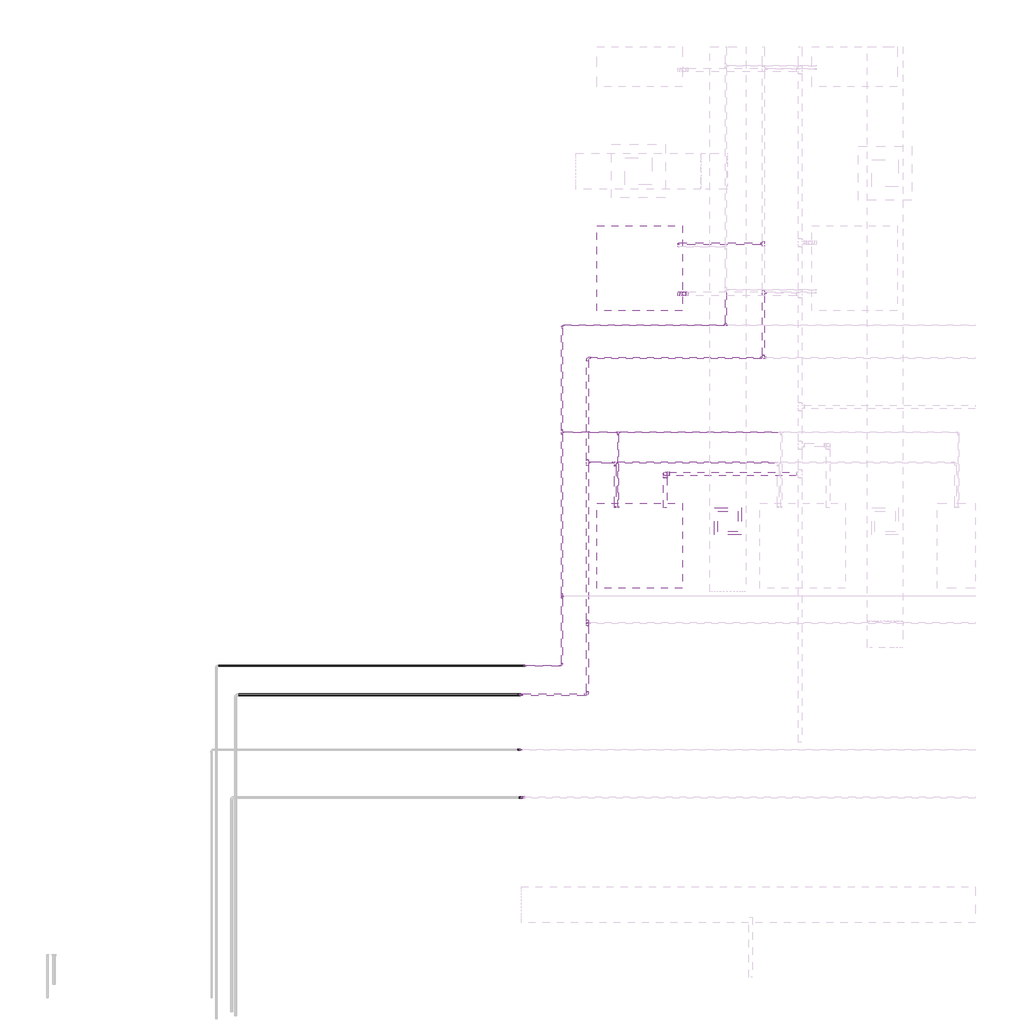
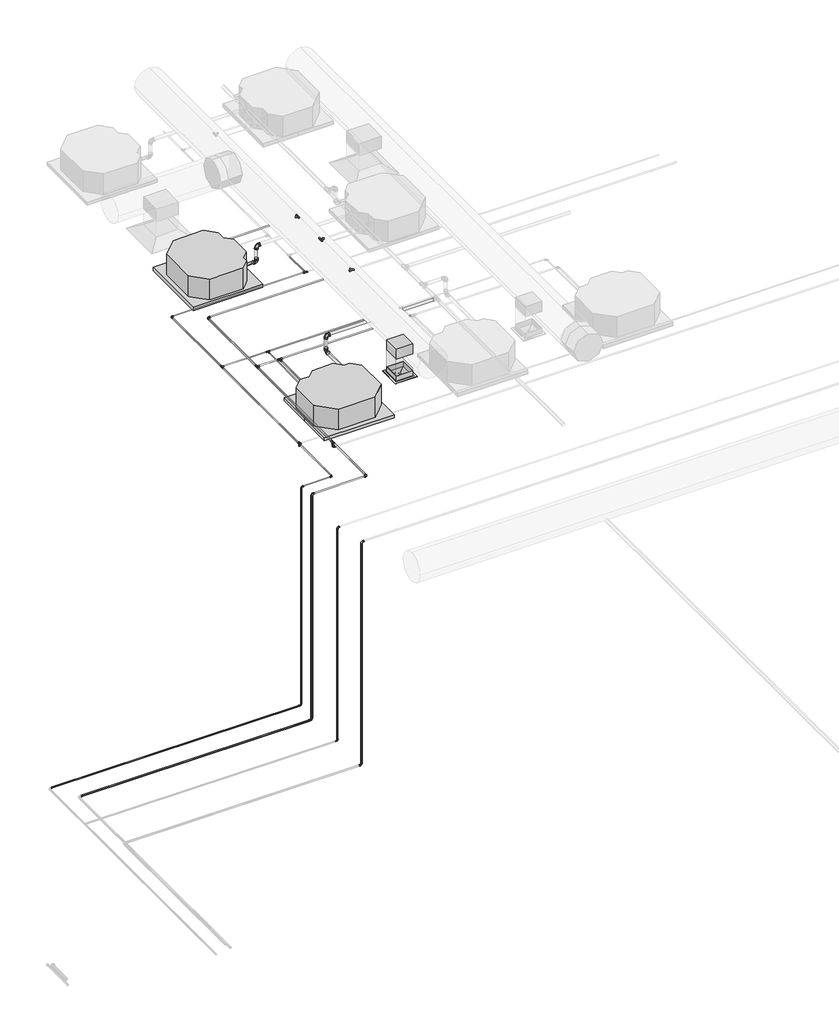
# One storey, part 13 of 22: 37 pipe fittings, 30 pipe segments, 2 proxies, 1 air terminal, 1 duct fitting, 1 duct segment.
"""IFC4 building model written with IfcOpenShell, lengths in millimetres."""

from ifc_helpers import new_model, si_unit, point, frame, frame_2d, origin, place, context, project, spatial, polyline, circle_curve, trimmed, segment, composite_curve, outline, extrude, transform, mapped, element, save
from components import sdq3535_a75e83f7, mechanical_equipment_53173f38, duct_fitting_570af4ff, pipe_fitting_45771724, pipe_fitting_144f4440, pipe_fitting_16c020f5, pipe_fitting_0e110a5f, pipe_fitting_afe73776, pipe_fitting_09966660, pipe_fitting_d3e019f1, pipe_fitting_501e5992, pipe_fitting_648138cd, pipe_fitting_58ab9b66, pipe_fitting_da16c1b3, pipe_fitting_5a6d96d3, pipe_fitting_3e80353c

model = new_model("IFC4")

# Units and contexts
model_context = context("Model", 3, world=origin())
ifc_project = project(units=[si_unit("LENGTHUNIT", "METRE", prefix="MILLI")], contexts=[model_context])

# Site, building, storey
site = spatial("IfcSite", under=ifc_project)
building = spatial("IfcBuilding", under=site)
storey = spatial("IfcBuildingStorey", under=building, Name="Nível 2", Elevation=3880.0)

# Air terminal
placement = place(None, origin())
sdq3535_shape = sdq3535_a75e83f7(model_context)
element("IfcAirTerminal", 1, ObjectType="11 - Difusor Quadrado : SDQ3535", at=placement, inside=storey, context=model_context, shape_type="MappedRepresentation", body=[
    mapped(sdq3535_shape, transform((-509.4071407, 3554.0761866, 6880.0), x_axis=(-1.0, 0.0, 0.0), y_axis=(0.0, -1.0, 0.0), z_axis=(0.0, 0.0, 1.0))),
])

# Proxies
mechanical_equipment_shape = mechanical_equipment_53173f38(model_context)
element("IfcBuildingElementProxy", 2, Name="Midea_VRF_Indoor_4-way Cassette_MI-90(100,112,140)Q4_DHN1-D (2nd DC) : MI2-140Q4DHN1", ObjectType="Midea_VRF_Indoor_4-way Cassette_MI-90(100,112,140)Q4_DHN1-D (2nd DC) : MI2-140Q4DHN1", at=placement, inside=storey, context=model_context, shape_type="MappedRepresentation", body=[
    mapped(mechanical_equipment_shape, transform((-1495.8584408, 3280.8653729, 6880.0), x_axis=(0.0, 1.0, 0.0), y_axis=(-1.0, 0.0, 0.0), z_axis=(0.0, 0.0, 1.0))),
])
element("IfcBuildingElementProxy", 3, Name="Midea_VRF_Indoor_4-way Cassette_MI-90(100,112,140)Q4_DHN1-D (2nd DC) : MI2-140Q4DHN1", ObjectType="Midea_VRF_Indoor_4-way Cassette_MI-90(100,112,140)Q4_DHN1-D (2nd DC) : MI2-140Q4DHN1", at=placement, inside=storey, context=model_context, shape_type="MappedRepresentation", body=[
    mapped(mechanical_equipment_shape, transform((-1495.8584408, 6380.8653729, 6880.0), x_axis=(1.0, 0.0, 0.0), y_axis=(0.0, 1.0, 0.0), z_axis=(0.0, 0.0, 1.0))),
])

# Duct fitting
duct_fitting_shape = duct_fitting_570af4ff(model_context)
element("IfcDuctFitting", 4, ObjectType="M_Encaixe de duto retangular : Padrão", at=placement, inside=storey, context=model_context, shape_type="MappedRepresentation", body=[
    mapped(duct_fitting_shape, transform((-509.4071407, 3554.0761866, 7301.0), x_axis=(0.0, 0.0, -1.0), y_axis=(0.0, 1.0, 0.0), z_axis=(1.0, 0.0, 0.0))),
])

# Duct segment
element("IfcDuctSegment", 5, ObjectType="Raios cotovelos / torneiras", at=placement, inside=storey, context=model_context, shape_type="SweptSolid", body=[
    extrude(outline(polyline([(-621.9071407, 3441.5761866), (-621.9071407, 3666.5761866), (-396.9071407, 3666.5761866), (-396.9071407, 3441.5761866), (-621.9071407, 3441.5761866)])), frame((0.0, 0.0, 6885.0), z_axis=(0.0, 0.0, 1.0), x_axis=(1.0, 0.0, 0.0)), (0.0, 0.0, 1.0), 314.4),
])

# Pipe fittings
pipe_fitting_shape = pipe_fitting_45771724(model_context)
element("IfcPipeFitting", 6, ObjectType="Cotovelo - PVC - CW : Padrão", at=placement, inside=storey, context=model_context, shape_type="MappedRepresentation", body=[
    mapped(pipe_fitting_shape, transform((-1210.8584408, 4085.8653728, 7132.3), x_axis=(0.0, 0.9999999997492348, -2.239487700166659e-05), y_axis=(0.0, 2.239487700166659e-05, 0.9999999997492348), z_axis=(1.0, 0.0, 0.0))),
])
pipe_fitting_2_shape = pipe_fitting_144f4440(model_context)
element("IfcPipeFitting", 7, ObjectType="Cotovelo - PVC - CW : Padrão", at=placement, inside=storey, context=model_context, shape_type="MappedRepresentation", body=[
    mapped(pipe_fitting_2_shape, transform((-1000.4586934, 6095.8653729, 7132.3085101), x_axis=(1.0, 0.0, 0.0), y_axis=(0.0, 0.0, 1.0), z_axis=(0.0, -1.0, 0.0))),
])
element("IfcPipeFitting", 8, ObjectType="Cotovelo - PVC - CW : Padrão", at=placement, inside=storey, context=model_context, shape_type="MappedRepresentation", body=[
    mapped(pipe_fitting_2_shape, transform((-1000.4586934, 6095.8653729, 7360.6313654), x_axis=(0.0, 0.0, 1.0), y_axis=(1.0, 0.0, 0.0), z_axis=(0.0, 1.0, 0.0))),
])
element("IfcPipeFitting", 9, ObjectType="Cotovelo - PVC - CW : Padrão", at=placement, inside=storey, context=model_context, shape_type="MappedRepresentation", body=[
    mapped(pipe_fitting_2_shape, transform((-1210.8584408, 4085.8653728, 7360.6313654), x_axis=(0.0, 0.0, 1.0), y_axis=(1.0, 0.0, 0.0), z_axis=(0.0, 1.0, 0.0))),
])
pipe_fitting_3_shape = pipe_fitting_16c020f5(model_context)
element("IfcPipeFitting", 10, ObjectType="Cotovelo - Soldado - CU : Padrão", at=placement, inside=storey, context=model_context, shape_type="MappedRepresentation", body=[
    mapped(pipe_fitting_3_shape, transform((-2079.8504151, 2420.9008152, 7062.3085101), x_axis=(0.0, 0.0, -1.0), y_axis=(1.0, 0.0, 0.0), z_axis=(0.0, -1.0, 0.0))),
])
pipe_fitting_4_shape = pipe_fitting_0e110a5f(model_context)
element("IfcPipeFitting", 11, ObjectType="Cotovelo - Soldado - CU : Padrão", at=placement, inside=storey, context=model_context, shape_type="MappedRepresentation", body=[
    mapped(pipe_fitting_4_shape, transform((-2813.8891409, 473.4586233, 7132.3), x_axis=(-1.0, 0.0, 0.0), y_axis=(0.0, 0.0, -1.0), z_axis=(0.0, -1.0, 0.0))),
])
element("IfcPipeFitting", 12, ObjectType="Cotovelo - Soldado - CU : Padrão", at=placement, inside=storey, context=model_context, shape_type="MappedRepresentation", body=[
    mapped(pipe_fitting_4_shape, transform((-2813.8891409, 473.4586233, 3918.9), x_axis=(0.0, 0.0, -1.0), y_axis=(-1.0, 0.0, 0.0), z_axis=(0.0, 1.0, 0.0))),
])
element("IfcPipeFitting", 13, ObjectType="Cotovelo - Soldado - CU : Padrão", at=placement, inside=storey, context=model_context, shape_type="MappedRepresentation", body=[
    mapped(pipe_fitting_4_shape, transform((-2079.8504151, 1620.03247, 7132.3), x_axis=(1.0, 0.0, 0.0), y_axis=(0.0, 1.0, 0.0), z_axis=(0.0, 0.0, 1.0))),
])
element("IfcPipeFitting", 14, ObjectType="Cotovelo - Soldado - CU : Padrão", at=placement, inside=storey, context=model_context, shape_type="MappedRepresentation", body=[
    mapped(pipe_fitting_4_shape, transform((-2079.8504151, 5380.03247, 7132.3), x_axis=(-1.0, 0.0, 0.0), y_axis=(0.0, -1.0, 0.0), z_axis=(0.0, 0.0, 1.0))),
])
element("IfcPipeFitting", 15, ObjectType="Cotovelo - Soldado - CU : Padrão", at=placement, inside=storey, context=model_context, shape_type="MappedRepresentation", body=[
    mapped(pipe_fitting_4_shape, transform((-2828.3914151, 1620.03247, 7132.3), x_axis=(-1.0, 0.0, 0.0), y_axis=(0.0, 0.0, -1.0), z_axis=(0.0, -1.0, 0.0))),
])
element("IfcPipeFitting", 16, ObjectType="Cotovelo - Soldado - CU : Padrão", at=placement, inside=storey, context=model_context, shape_type="MappedRepresentation", body=[
    mapped(pipe_fitting_4_shape, transform((-2828.3914151, 1620.03247, 3880.0), x_axis=(0.0, 0.0, -1.0), y_axis=(-1.0, 0.0, 0.0), z_axis=(0.0, 1.0, 0.0))),
])
pipe_fitting_5_shape = pipe_fitting_afe73776(model_context)
element("IfcPipeFitting", 17, ObjectType="Bucha de redução reta - Soldada - CU : Padrão", at=placement, inside=storey, context=model_context, shape_type="MappedRepresentation", body=[
    mapped(pipe_fitting_5_shape, transform((-84.7367501, 6107.6545593, 7132.3003125), x_axis=(0.9999999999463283, 0.0, 1.0360678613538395e-05), y_axis=(0.0, 1.0000000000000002, 0.0), z_axis=(-1.0360678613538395e-05, 0.0, 0.9999999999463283))),
])
element("IfcPipeFitting", 18, ObjectType="Bucha de redução reta - Soldada - CU : Padrão", at=placement, inside=storey, context=model_context, shape_type="MappedRepresentation", body=[
    mapped(pipe_fitting_5_shape, transform((-1769.0692545, 4182.6905207, 7132.3005294), x_axis=(0.0, -0.9999999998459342, 1.7553676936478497e-05), y_axis=(1.0, 0.0, 0.0), z_axis=(0.0, 1.7553676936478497e-05, 0.9999999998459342))),
])
element("IfcPipeFitting", 19, ObjectType="Bucha de redução reta - Soldada - CU : Padrão", at=placement, inside=storey, context=model_context, shape_type="MappedRepresentation", body=[
    mapped(pipe_fitting_5_shape, transform((-2079.8504151, 2420.9008152, 7102.1395), x_axis=(0.0, 0.0, -1.0), y_axis=(0.0, 1.0, 0.0), z_axis=(1.0, 0.0, 0.0))),
])
pipe_fitting_6_shape = pipe_fitting_09966660(model_context)
element("IfcPipeFitting", 20, ObjectType="Tê - Soldado - CU : Padrão", at=placement, inside=storey, context=model_context, shape_type="MappedRepresentation", body=[
    mapped(pipe_fitting_6_shape, transform((-114.8972501, 5380.03247, 7132.3), x_axis=(-1.0, 0.0, 0.0), y_axis=(0.0, -1.0, 0.0), z_axis=(0.0, 0.0, 1.0))),
])
element("IfcPipeFitting", 21, ObjectType="Tê - Soldado - CU : Padrão", at=placement, inside=storey, context=model_context, shape_type="MappedRepresentation", body=[
    mapped(pipe_fitting_6_shape, transform((-114.8972501, 6107.6545593, 7132.3), x_axis=(0.0, -1.0, 0.0), y_axis=(-0.9999999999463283, 0.0, -1.0360678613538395e-05), z_axis=(1.0360678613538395e-05, 0.0, -0.9999999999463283))),
])
element("IfcPipeFitting", 22, ObjectType="Tê - Soldado - CU : Padrão", at=placement, inside=storey, context=model_context, shape_type="MappedRepresentation", body=[
    mapped(pipe_fitting_6_shape, transform((-114.8972501, 6654.0761866, 7132.3), x_axis=(0.0, -1.0, 0.0), y_axis=(0.9999999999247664, 0.0, -1.2266510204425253e-05), z_axis=(1.2266510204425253e-05, 0.0, 0.9999999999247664))),
])
element("IfcPipeFitting", 23, ObjectType="Tê - Soldado - CU : Padrão", at=placement, inside=storey, context=model_context, shape_type="MappedRepresentation", body=[
    mapped(pipe_fitting_6_shape, transform((-2079.8504151, 4212.8510207, 7132.3), x_axis=(0.0, 1.0, 0.0), y_axis=(-1.0, 0.0, 0.0), z_axis=(0.0, 0.0, 1.0))),
])
element("IfcPipeFitting", 24, ObjectType="Tê - Soldado - CU : Padrão", at=placement, inside=storey, context=model_context, shape_type="MappedRepresentation", body=[
    mapped(pipe_fitting_6_shape, transform((-1769.0692545, 4212.8510207, 7132.3), x_axis=(-1.0, 0.0, 0.0), y_axis=(0.0, 0.9999999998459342, -1.7553676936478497e-05), z_axis=(0.0, -1.7553676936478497e-05, -0.9999999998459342))),
])
element("IfcPipeFitting", 25, ObjectType="Tê - Soldado - CU : Padrão", at=placement, inside=storey, context=model_context, shape_type="MappedRepresentation", body=[
    mapped(pipe_fitting_6_shape, transform((-2079.8504151, 2420.9008152, 7132.3), x_axis=(0.0, 1.0, 0.0), y_axis=(0.0, 0.0, 1.0), z_axis=(1.0, 0.0, 0.0))),
])
pipe_fitting_7_shape = pipe_fitting_d3e019f1(model_context)
element("IfcPipeFitting", 26, ObjectType="Bucha de redução reta - Soldada - CU : Padrão", at=placement, inside=storey, context=model_context, shape_type="MappedRepresentation", body=[
    mapped(pipe_fitting_7_shape, transform((-1058.1854408, 6654.0761866, 7132.3083568), x_axis=(-0.9999999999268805, 0.0, 1.2092934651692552e-05), y_axis=(0.0, -1.0, 0.0), z_axis=(1.2092934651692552e-05, 0.0, 0.9999999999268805))),
])
pipe_fitting_8_shape = pipe_fitting_501e5992(model_context)
element("IfcPipeFitting", 27, ObjectType="Bucha de redução reta - Soldada - CU : Padrão", at=placement, inside=storey, context=model_context, shape_type="MappedRepresentation", body=[
    mapped(pipe_fitting_8_shape, transform((-1769.0692545, 3718.5242729, 7132.3082925), x_axis=(0.0, -0.999999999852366, 1.718336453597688e-05), y_axis=(1.0, 0.0, 0.0), z_axis=(0.0, 1.718336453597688e-05, 0.999999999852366))),
])
pipe_fitting_9_shape = pipe_fitting_648138cd(model_context)
element("IfcPipeFitting", 28, ObjectType="Cotovelo - Soldado - CU : Padrão", at=placement, inside=storey, context=model_context, shape_type="MappedRepresentation", body=[
    mapped(pipe_fitting_9_shape, transform((-2364.6914695, 2720.9008152, 7026.8446487), x_axis=(0.0, 0.0, -1.0), y_axis=(1.0, 0.0, 0.0), z_axis=(0.0, -1.0, 0.0))),
])
pipe_fitting_10_shape = pipe_fitting_58ab9b66(model_context)
element("IfcPipeFitting", 29, ObjectType="Bucha de redução reta - Soldada - CU : Padrão", at=placement, inside=storey, context=model_context, shape_type="MappedRepresentation", body=[
    mapped(pipe_fitting_10_shape, transform((-1061.1840408, 6620.2737448, 7026.8446487), x_axis=(-1.0, 0.0, 0.0), y_axis=(0.0, -1.0, 0.0), z_axis=(0.0, 0.0, 1.0))),
])
element("IfcPipeFitting", 30, ObjectType="Bucha de redução reta - Soldada - CU : Padrão", at=placement, inside=storey, context=model_context, shape_type="MappedRepresentation", body=[
    mapped(pipe_fitting_10_shape, transform((-1735.2668127, 3715.5397729, 7026.8446487), x_axis=(0.0, -1.0, 0.0), y_axis=(1.0, 0.0, 0.0), z_axis=(0.0, 0.0, 1.0))),
])
pipe_fitting_11_shape = pipe_fitting_da16c1b3(model_context)
element("IfcPipeFitting", 31, ObjectType="Tê - Soldado - CU : Padrão", at=placement, inside=storey, context=model_context, shape_type="MappedRepresentation", body=[
    mapped(pipe_fitting_11_shape, transform((-534.8999659, 5743.0785153, 7026.8446487), x_axis=(1.0, 0.0, 0.0), y_axis=(0.0, -1.0, 0.0), z_axis=(0.0, 0.0, -1.0))),
])
element("IfcPipeFitting", 32, ObjectType="Tê - Soldado - CU : Padrão", at=placement, inside=storey, context=model_context, shape_type="MappedRepresentation", body=[
    mapped(pipe_fitting_11_shape, transform((-2364.6914695, 4550.568265, 7026.8446487), x_axis=(0.0, 1.0, 0.0), y_axis=(-1.0, 0.0, 0.0), z_axis=(0.0, 0.0, 1.0))),
])
element("IfcPipeFitting", 33, ObjectType="Tê - Soldado - CU : Padrão", at=placement, inside=storey, context=model_context, shape_type="MappedRepresentation", body=[
    mapped(pipe_fitting_11_shape, transform((-1735.2668127, 4550.568265, 7026.8446487), x_axis=(-1.0, 0.0, 0.0), y_axis=(0.0, 1.0, 0.0), z_axis=(0.0, 0.0, -1.0))),
])
element("IfcPipeFitting", 34, ObjectType="Tê - Soldado - CU : Padrão", at=placement, inside=storey, context=model_context, shape_type="MappedRepresentation", body=[
    mapped(pipe_fitting_11_shape, transform((-2364.6914695, 2720.9008152, 7026.8446487), x_axis=(0.0, 1.0, 0.0), y_axis=(0.0, 0.0, 1.0), z_axis=(1.0, 0.0, 0.0))),
])
pipe_fitting_12_shape = pipe_fitting_5a6d96d3(model_context)
element("IfcPipeFitting", 35, ObjectType="Bucha de redução reta - Soldada - CU : Padrão", at=placement, inside=storey, context=model_context, shape_type="MappedRepresentation", body=[
    mapped(pipe_fitting_12_shape, transform((-1735.2668127, 4525.551265, 7026.8446487), x_axis=(0.0, -1.0, 0.0), y_axis=(1.0, 0.0, 0.0), z_axis=(0.0, 0.0, 1.0))),
])
element("IfcPipeFitting", 36, ObjectType="Bucha de redução reta - Soldada - CU : Padrão", at=placement, inside=storey, context=model_context, shape_type="MappedRepresentation", body=[
    mapped(pipe_fitting_12_shape, transform((-2364.6914695, 2720.9008152, 7001.8276487), x_axis=(0.0, 0.0, -1.0), y_axis=(0.0, 1.0, 0.0), z_axis=(1.0, 0.0, 0.0))),
])
pipe_fitting_13_shape = pipe_fitting_3e80353c(model_context)
element("IfcPipeFitting", 37, ObjectType="Cotovelo - Soldado - CU : Padrão", at=placement, inside=storey, context=model_context, shape_type="MappedRepresentation", body=[
    mapped(pipe_fitting_13_shape, transform((-2833.8891408, 1004.7679315, 3954.6), x_axis=(0.0, 0.0, -1.0), y_axis=(-1.0, 0.0, 0.0), z_axis=(0.0, 1.0, 0.0))),
])
element("IfcPipeFitting", 38, ObjectType="Cotovelo - Soldado - CU : Padrão", at=placement, inside=storey, context=model_context, shape_type="MappedRepresentation", body=[
    mapped(pipe_fitting_13_shape, transform((-2364.6914695, 5743.0785153, 7026.8446487), x_axis=(-1.0, 0.0, 0.0), y_axis=(0.0, -1.0, 0.0), z_axis=(0.0, 0.0, 1.0))),
])
element("IfcPipeFitting", 39, ObjectType="Cotovelo - Soldado - CU : Padrão", at=placement, inside=storey, context=model_context, shape_type="MappedRepresentation", body=[
    mapped(pipe_fitting_13_shape, transform((-2784.6914695, 1943.0785153, 7026.8446487), x_axis=(-1.0, 0.0, 0.0), y_axis=(0.0, 0.0, -1.0), z_axis=(0.0, -1.0, 0.0))),
])
element("IfcPipeFitting", 40, ObjectType="Cotovelo - Soldado - CU : Padrão", at=placement, inside=storey, context=model_context, shape_type="MappedRepresentation", body=[
    mapped(pipe_fitting_13_shape, transform((-2784.6914695, 1943.0785153, 3880.0), x_axis=(0.0, 0.0, -1.0), y_axis=(-1.0, 0.0, 0.0), z_axis=(0.0, 1.0, 0.0))),
])
element("IfcPipeFitting", 41, ObjectType="Cotovelo - Soldado - CU : Padrão", at=placement, inside=storey, context=model_context, shape_type="MappedRepresentation", body=[
    mapped(pipe_fitting_13_shape, transform((-2833.8891408, 1004.7679315, 7026.8446487), x_axis=(0.0, 0.0, 1.0), y_axis=(1.0, 0.0, 0.0), z_axis=(0.0, 1.0, 0.0))),
])
element("IfcPipeFitting", 42, ObjectType="Cotovelo - Soldado - CU : Padrão", at=placement, inside=storey, context=model_context, shape_type="MappedRepresentation", body=[
    mapped(pipe_fitting_13_shape, transform((-2364.6914695, 1943.0785153, 7026.8446487), x_axis=(1.0, 0.0, 0.0), y_axis=(0.0, 1.0, 0.0), z_axis=(0.0, 0.0, 1.0))),
])

# Pipe segments
element("IfcPipeSegment", 43, ObjectType="Tubos de cobre HVAC", at=placement, inside=storey, context=model_context, shape_type="SweptSolid", body=[
    extrude(outline(composite_curve([segment(trimmed(circle_curve(frame_2d((-2813.8891409, 473.4586233)), 9.525), [point((-2804.3641409, 473.4586233))], [point((-2813.8891409, 463.9336233))], False, "CARTESIAN"), True, "CONTINUOUS"), segment(trimmed(circle_curve(frame_2d((-2813.8891409, 473.4586233)), 9.525), [point((-2813.8891409, 463.9336233))], [point((-2823.4141409, 473.4586233))], False, "CARTESIAN"), True, "CONTINUOUS"), segment(trimmed(circle_curve(frame_2d((-2813.8891409, 473.4586233)), 9.525), [point((-2823.4141409, 473.4586233))], [point((-2813.8891409, 482.9836233))], False, "CARTESIAN"), True, "CONTINUOUS"), segment(trimmed(circle_curve(frame_2d((-2813.8891409, 473.4586233)), 9.525), [point((-2813.8891409, 482.9836233))], [point((-2804.3641409, 473.4586233))], False, "CARTESIAN"), True, "CONTINUOUS")], self_intersect=False)), frame((0.0, 0.0, 3950.359), z_axis=(0.0, 0.0, 1.0), x_axis=(1.0, 0.0, 0.0)), (0.0, 0.0, 1.0), 3150.482),
])
element("IfcPipeSegment", 44, ObjectType="Tubos de cobre HVAC", at=placement, inside=storey, context=model_context, shape_type="SweptSolid", body=[
    extrude(outline(composite_curve([segment(trimmed(circle_curve(frame_2d((-2833.8891408, 1004.7679315)), 6.35), [point((-2827.5391408, 1004.7679315))], [point((-2833.8891408, 998.4179315))], False, "CARTESIAN"), True, "CONTINUOUS"), segment(trimmed(circle_curve(frame_2d((-2833.8891408, 1004.7679315)), 6.35), [point((-2833.8891408, 998.4179315))], [point((-2840.2391408, 1004.7679315))], False, "CARTESIAN"), True, "CONTINUOUS"), segment(trimmed(circle_curve(frame_2d((-2833.8891408, 1004.7679315)), 6.35), [point((-2840.2391408, 1004.7679315))], [point((-2833.8891408, 1011.1179315))], False, "CARTESIAN"), True, "CONTINUOUS"), segment(trimmed(circle_curve(frame_2d((-2833.8891408, 1004.7679315)), 6.35), [point((-2833.8891408, 1011.1179315))], [point((-2827.5391408, 1004.7679315))], False, "CARTESIAN"), True, "CONTINUOUS")], self_intersect=False)), frame((0.0, 0.0, 3981.106), z_axis=(0.0, 0.0, 1.0), x_axis=(1.0, 0.0, 0.0)), (0.0, 0.0, 1.0), 3019.2326487),
])
element("IfcPipeSegment", 45, ObjectType="Tubos de cobre HVAC", at=placement, inside=storey, context=model_context, shape_type="SweptSolid", body=[
    extrude(outline(composite_curve([segment(trimmed(circle_curve(frame_2d((1620.03247, 7132.3)), 9.525), [point((1629.55747, 7132.3))], [point((1620.03247, 7122.775))], False, "CARTESIAN"), True, "CONTINUOUS"), segment(trimmed(circle_curve(frame_2d((1620.03247, 7132.3)), 9.525), [point((1620.03247, 7122.775))], [point((1610.50747, 7132.3))], False, "CARTESIAN"), True, "CONTINUOUS"), segment(trimmed(circle_curve(frame_2d((1620.03247, 7132.3)), 9.525), [point((1610.50747, 7132.3))], [point((1620.03247, 7141.825))], False, "CARTESIAN"), True, "CONTINUOUS"), segment(trimmed(circle_curve(frame_2d((1620.03247, 7132.3)), 9.525), [point((1620.03247, 7141.825))], [point((1629.55747, 7132.3))], False, "CARTESIAN"), True, "CONTINUOUS")], self_intersect=False)), frame((-2796.9324151, 0.0, 0.0), z_axis=(1.0, 0.0, 0.0), x_axis=(0.0, 1.0, 0.0)), (0.0, 0.0, 1.0), 685.623),
])
element("IfcPipeSegment", 46, ObjectType="Tubos de cobre HVAC", at=placement, inside=storey, context=model_context, shape_type="SweptSolid", body=[
    extrude(outline(composite_curve([segment(trimmed(circle_curve(frame_2d((5380.03247, 7132.3)), 9.525), [point((5370.50747, 7132.3))], [point((5380.03247, 7141.825))], False, "CARTESIAN"), True, "CONTINUOUS"), segment(trimmed(circle_curve(frame_2d((5380.03247, 7132.3)), 9.525), [point((5380.03247, 7141.825))], [point((5389.55747, 7132.3))], False, "CARTESIAN"), True, "CONTINUOUS"), segment(trimmed(circle_curve(frame_2d((5380.03247, 7132.3)), 9.525), [point((5389.55747, 7132.3))], [point((5380.03247, 7122.775))], False, "CARTESIAN"), True, "CONTINUOUS"), segment(trimmed(circle_curve(frame_2d((5380.03247, 7132.3)), 9.525), [point((5380.03247, 7122.775))], [point((5370.50747, 7132.3))], False, "CARTESIAN"), True, "CONTINUOUS")], self_intersect=False)), frame((-2048.3914151, 0.0, 0.0), z_axis=(1.0, 0.0, 0.0), x_axis=(0.0, 1.0, 0.0)), (0.0, 0.0, 1.0), 1903.298915),
])
element("IfcPipeSegment", 47, ObjectType="Tubos de cobre HVAC", at=placement, inside=storey, context=model_context, shape_type="SweptSolid", body=[
    extrude(outline(composite_curve([segment(trimmed(circle_curve(frame_2d((7132.3, -114.8972501)), 9.525), [point((7132.3, -105.3722501))], [point((7141.825, -114.8972501))], False, "CARTESIAN"), True, "CONTINUOUS"), segment(trimmed(circle_curve(frame_2d((7132.3, -114.8972501)), 9.525), [point((7141.825, -114.8972501))], [point((7132.3, -124.4222501))], False, "CARTESIAN"), True, "CONTINUOUS"), segment(trimmed(circle_curve(frame_2d((7132.3, -114.8972501)), 9.525), [point((7132.3, -124.4222501))], [point((7122.775, -114.8972501))], False, "CARTESIAN"), True, "CONTINUOUS"), segment(trimmed(circle_curve(frame_2d((7132.3, -114.8972501)), 9.525), [point((7122.775, -114.8972501))], [point((7132.3, -105.3722501))], False, "CARTESIAN"), True, "CONTINUOUS")], self_intersect=False)), frame((0.0, 5410.19297, 0.0), z_axis=(0.0, 1.0, 0.0), x_axis=(0.0, 0.0, 1.0)), (0.0, 0.0, 1.0), 667.2663393),
])
element("IfcPipeSegment", 48, ObjectType="Tubos de cobre HVAC", at=placement, inside=storey, context=model_context, shape_type="SweptSolid", body=[
    extrude(outline(composite_curve([segment(trimmed(circle_curve(frame_2d((0.0, 9.525)), 9.525), [point((-9.525, 9.525))], [point((0.0, 19.05))], False, "CARTESIAN"), True, "CONTINUOUS"), segment(trimmed(circle_curve(frame_2d((0.0, 9.525)), 9.525), [point((0.0, 19.05))], [point((9.525, 9.525))], False, "CARTESIAN"), True, "CONTINUOUS"), segment(trimmed(circle_curve(frame_2d((0.0, 9.525)), 9.525), [point((9.525, 9.525))], [point((0.0, 0.0))], False, "CARTESIAN"), True, "CONTINUOUS"), segment(trimmed(circle_curve(frame_2d((0.0, 9.525)), 9.525), [point((0.0, 0.0))], [point((-9.525, 9.525))], False, "CARTESIAN"), True, "CONTINUOUS")], self_intersect=False)), frame((-145.057835, 6654.0761866, 7122.77537), z_axis=(-0.9999999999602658, 0.0, 8.914513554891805e-06), x_axis=(0.0, -1.0, 0.0)), (0.0, 0.0, 1.0), 913.1276908),
])
element("IfcPipeSegment", 49, ObjectType="Tubos de cobre HVAC", at=placement, inside=storey, context=model_context, shape_type="SweptSolid", body=[
    extrude(outline(composite_curve([segment(trimmed(circle_curve(frame_2d((7132.3, -2079.8504151)), 9.525), [point((7132.3, -2089.3754151))], [point((7122.775, -2079.8504151))], False, "CARTESIAN"), True, "CONTINUOUS"), segment(trimmed(circle_curve(frame_2d((7132.3, -2079.8504151)), 9.525), [point((7122.775, -2079.8504151))], [point((7132.3, -2070.3254151))], False, "CARTESIAN"), True, "CONTINUOUS"), segment(trimmed(circle_curve(frame_2d((7132.3, -2079.8504151)), 9.525), [point((7132.3, -2070.3254151))], [point((7141.825, -2079.8504151))], False, "CARTESIAN"), True, "CONTINUOUS"), segment(trimmed(circle_curve(frame_2d((7132.3, -2079.8504151)), 9.525), [point((7141.825, -2079.8504151))], [point((7132.3, -2089.3754151))], False, "CARTESIAN"), True, "CONTINUOUS")], self_intersect=False)), frame((0.0, 1651.49147, 0.0), z_axis=(0.0, 1.0, 0.0), x_axis=(0.0, 0.0, 1.0)), (0.0, 0.0, 1.0), 739.2140953),
])
element("IfcPipeSegment", 50, ObjectType="Tubos de cobre HVAC", at=placement, inside=storey, context=model_context, shape_type="SweptSolid", body=[
    extrude(outline(composite_curve([segment(trimmed(circle_curve(frame_2d((7132.3, -2079.8504151)), 9.525), [point((7132.3, -2089.3754151))], [point((7122.775, -2079.8504151))], False, "CARTESIAN"), True, "CONTINUOUS"), segment(trimmed(circle_curve(frame_2d((7132.3, -2079.8504151)), 9.525), [point((7122.775, -2079.8504151))], [point((7132.3, -2070.3254151))], False, "CARTESIAN"), True, "CONTINUOUS"), segment(trimmed(circle_curve(frame_2d((7132.3, -2079.8504151)), 9.525), [point((7132.3, -2070.3254151))], [point((7141.825, -2079.8504151))], False, "CARTESIAN"), True, "CONTINUOUS"), segment(trimmed(circle_curve(frame_2d((7132.3, -2079.8504151)), 9.525), [point((7141.825, -2079.8504151))], [point((7132.3, -2089.3754151))], False, "CARTESIAN"), True, "CONTINUOUS")], self_intersect=False)), frame((0.0, 4243.0462707, 0.0), z_axis=(0.0, 1.0, 0.0), x_axis=(0.0, 0.0, 1.0)), (0.0, 0.0, 1.0), 1105.5271993),
])
element("IfcPipeSegment", 51, ObjectType="Tubos de cobre HVAC", at=placement, inside=storey, context=model_context, shape_type="SweptSolid", body=[
    extrude(outline(composite_curve([segment(trimmed(circle_curve(frame_2d((0.0, 9.525)), 9.525), [point((-9.525, 9.525))], [point((0.0, 19.05))], False, "CARTESIAN"), True, "CONTINUOUS"), segment(trimmed(circle_curve(frame_2d((0.0, 9.525)), 9.525), [point((0.0, 19.05))], [point((9.525, 9.525))], False, "CARTESIAN"), True, "CONTINUOUS"), segment(trimmed(circle_curve(frame_2d((0.0, 9.525)), 9.525), [point((9.525, 9.525))], [point((0.0, 0.0))], False, "CARTESIAN"), True, "CONTINUOUS"), segment(trimmed(circle_curve(frame_2d((0.0, 9.525)), 9.525), [point((0.0, 0.0))], [point((-9.525, 9.525))], False, "CARTESIAN"), True, "CONTINUOUS")], self_intersect=False)), frame((-1738.8740045, 4212.8510207, 7122.775), z_axis=(1.0, -2.1316282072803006e-12, 0.0), x_axis=(2.1316282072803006e-12, 1.0, 0.0)), (0.0, 0.0, 1.0), 1759.6095),
])
element("IfcPipeSegment", 52, ObjectType="Tubos de cobre HVAC", at=placement, inside=storey, context=model_context, shape_type="SweptSolid", body=[
    extrude(outline(composite_curve([segment(trimmed(circle_curve(frame_2d((0.0, 7.935)), 7.935), [point((0.0, 0.0))], [point((-7.935, 7.935))], False, "CARTESIAN"), True, "CONTINUOUS"), segment(trimmed(circle_curve(frame_2d((0.0, 7.935)), 7.935), [point((-7.935, 7.935))], [point((0.0, 15.87))], False, "CARTESIAN"), True, "CONTINUOUS"), segment(trimmed(circle_curve(frame_2d((0.0, 7.935)), 7.935), [point((0.0, 15.87))], [point((7.935, 7.935))], False, "CARTESIAN"), True, "CONTINUOUS"), segment(trimmed(circle_curve(frame_2d((0.0, 7.935)), 7.935), [point((7.935, 7.935))], [point((0.0, 0.0))], False, "CARTESIAN"), True, "CONTINUOUS")], self_intersect=False)), frame((-1777.0042545, 4170.0316207, 7132.3007516), z_axis=(0.0, -0.9999999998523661, 1.7183364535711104e-05), x_axis=(0.0, -1.7183364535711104e-05, -0.9999999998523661)), (0.0, 0.0, 1.0), 451.5073478),
])
element("IfcPipeSegment", 53, ObjectType="Tubos de cobre HVAC", at=placement, inside=storey, context=model_context, shape_type="SweptSolid", body=[
    extrude(outline(composite_curve([segment(trimmed(circle_curve(frame_2d((4212.8510207, 7132.3)), 9.525), [point((4203.3260207, 7132.3))], [point((4212.8510207, 7141.825))], False, "CARTESIAN"), True, "CONTINUOUS"), segment(trimmed(circle_curve(frame_2d((4212.8510207, 7132.3)), 9.525), [point((4212.8510207, 7141.825))], [point((4222.3760207, 7132.3))], False, "CARTESIAN"), True, "CONTINUOUS"), segment(trimmed(circle_curve(frame_2d((4212.8510207, 7132.3)), 9.525), [point((4222.3760207, 7132.3))], [point((4212.8510207, 7122.775))], False, "CARTESIAN"), True, "CONTINUOUS"), segment(trimmed(circle_curve(frame_2d((4212.8510207, 7132.3)), 9.525), [point((4212.8510207, 7122.775))], [point((4203.3260207, 7132.3))], False, "CARTESIAN"), True, "CONTINUOUS")], self_intersect=False)), frame((-2049.6899151, 0.0, 0.0), z_axis=(1.0, 0.0, 0.0), x_axis=(0.0, 1.0, 0.0)), (0.0, 0.0, 1.0), 250.4254106),
])
element("IfcPipeSegment", 54, ObjectType="Tubos de cobre HVAC", at=placement, inside=storey, context=model_context, shape_type="SweptSolid", body=[
    extrude(outline(composite_curve([segment(trimmed(circle_curve(frame_2d((7026.8446487, -2364.6914695)), 6.35), [point((7026.8446487, -2358.3414695))], [point((7033.1946487, -2364.6914695))], False, "CARTESIAN"), True, "CONTINUOUS"), segment(trimmed(circle_curve(frame_2d((7026.8446487, -2364.6914695)), 6.35), [point((7033.1946487, -2364.6914695))], [point((7026.8446487, -2371.0414695))], False, "CARTESIAN"), True, "CONTINUOUS"), segment(trimmed(circle_curve(frame_2d((7026.8446487, -2364.6914695)), 6.35), [point((7026.8446487, -2371.0414695))], [point((7020.4946487, -2364.6914695))], False, "CARTESIAN"), True, "CONTINUOUS"), segment(trimmed(circle_curve(frame_2d((7026.8446487, -2364.6914695)), 6.35), [point((7020.4946487, -2364.6914695))], [point((7026.8446487, -2358.3414695))], False, "CARTESIAN"), True, "CONTINUOUS")], self_intersect=False)), frame((0.0, 1969.5845153, 0.0), z_axis=(0.0, 1.0, 0.0), x_axis=(0.0, 0.0, 1.0)), (0.0, 0.0, 1.0), 726.2328),
])
element("IfcPipeSegment", 55, ObjectType="Tubos de cobre HVAC", at=placement, inside=storey, context=model_context, shape_type="SweptSolid", body=[
    extrude(outline(composite_curve([segment(trimmed(circle_curve(frame_2d((1943.0785153, 7026.8446487)), 6.35), [point((1949.4285153, 7026.8446487))], [point((1943.0785153, 7020.4946487))], False, "CARTESIAN"), True, "CONTINUOUS"), segment(trimmed(circle_curve(frame_2d((1943.0785153, 7026.8446487)), 6.35), [point((1943.0785153, 7020.4946487))], [point((1936.7285153, 7026.8446487))], False, "CARTESIAN"), True, "CONTINUOUS"), segment(trimmed(circle_curve(frame_2d((1943.0785153, 7026.8446487)), 6.35), [point((1936.7285153, 7026.8446487))], [point((1943.0785153, 7033.1946487))], False, "CARTESIAN"), True, "CONTINUOUS"), segment(trimmed(circle_curve(frame_2d((1943.0785153, 7026.8446487)), 6.35), [point((1943.0785153, 7033.1946487))], [point((1949.4285153, 7026.8446487))], False, "CARTESIAN"), True, "CONTINUOUS")], self_intersect=False)), frame((-2758.1854695, 0.0, 0.0), z_axis=(1.0, 0.0, 0.0), x_axis=(0.0, 1.0, 0.0)), (0.0, 0.0, 1.0), 366.988),
])
element("IfcPipeSegment", 56, ObjectType="Tubos de cobre HVAC", at=placement, inside=storey, context=model_context, shape_type="SweptSolid", body=[
    extrude(outline(composite_curve([segment(trimmed(circle_curve(frame_2d((5743.0785153, 7026.8446487)), 6.35), [point((5749.4285153, 7026.8446487))], [point((5743.0785153, 7020.4946487))], False, "CARTESIAN"), True, "CONTINUOUS"), segment(trimmed(circle_curve(frame_2d((5743.0785153, 7026.8446487)), 6.35), [point((5743.0785153, 7020.4946487))], [point((5736.7285153, 7026.8446487))], False, "CARTESIAN"), True, "CONTINUOUS"), segment(trimmed(circle_curve(frame_2d((5743.0785153, 7026.8446487)), 6.35), [point((5736.7285153, 7026.8446487))], [point((5743.0785153, 7033.1946487))], False, "CARTESIAN"), True, "CONTINUOUS"), segment(trimmed(circle_curve(frame_2d((5743.0785153, 7026.8446487)), 6.35), [point((5743.0785153, 7033.1946487))], [point((5749.4285153, 7026.8446487))], False, "CARTESIAN"), True, "CONTINUOUS")], self_intersect=False)), frame((-2338.1854695, 0.0, 0.0), z_axis=(1.0, 0.0, 0.0), x_axis=(0.0, 1.0, 0.0)), (0.0, 0.0, 1.0), 1778.2020036),
])
element("IfcPipeSegment", 57, ObjectType="Tubos de cobre HVAC", at=placement, inside=storey, context=model_context, shape_type="SweptSolid", body=[
    extrude(outline(composite_curve([segment(trimmed(circle_curve(frame_2d((7026.8446487, -534.8999659)), 6.35), [point((7026.8446487, -528.5499659))], [point((7033.1946487, -534.8999659))], False, "CARTESIAN"), True, "CONTINUOUS"), segment(trimmed(circle_curve(frame_2d((7026.8446487, -534.8999659)), 6.35), [point((7033.1946487, -534.8999659))], [point((7026.8446487, -541.2499659))], False, "CARTESIAN"), True, "CONTINUOUS"), segment(trimmed(circle_curve(frame_2d((7026.8446487, -534.8999659)), 6.35), [point((7026.8446487, -541.2499659))], [point((7020.4946487, -534.8999659))], False, "CARTESIAN"), True, "CONTINUOUS"), segment(trimmed(circle_curve(frame_2d((7026.8446487, -534.8999659)), 6.35), [point((7020.4946487, -534.8999659))], [point((7026.8446487, -528.5499659))], False, "CARTESIAN"), True, "CONTINUOUS")], self_intersect=False)), frame((0.0, 5768.0955153, 0.0), z_axis=(0.0, 1.0, 0.0), x_axis=(0.0, 0.0, 1.0)), (0.0, 0.0, 1.0), 348.2779858),
])
element("IfcPipeSegment", 58, ObjectType="Tubos de cobre HVAC", at=placement, inside=storey, context=model_context, shape_type="SweptSolid", body=[
    extrude(outline(composite_curve([segment(trimmed(circle_curve(frame_2d((7026.8446487, -2364.6914695)), 6.35), [point((7026.8446487, -2371.0414695))], [point((7020.4946487, -2364.6914695))], False, "CARTESIAN"), True, "CONTINUOUS"), segment(trimmed(circle_curve(frame_2d((7026.8446487, -2364.6914695)), 6.35), [point((7020.4946487, -2364.6914695))], [point((7026.8446487, -2358.3414695))], False, "CARTESIAN"), True, "CONTINUOUS"), segment(trimmed(circle_curve(frame_2d((7026.8446487, -2364.6914695)), 6.35), [point((7026.8446487, -2358.3414695))], [point((7033.1946487, -2364.6914695))], False, "CARTESIAN"), True, "CONTINUOUS"), segment(trimmed(circle_curve(frame_2d((7026.8446487, -2364.6914695)), 6.35), [point((7033.1946487, -2364.6914695))], [point((7026.8446487, -2371.0414695))], False, "CARTESIAN"), True, "CONTINUOUS")], self_intersect=False)), frame((0.0, 4575.651765, 0.0), z_axis=(0.0, 1.0, 0.0), x_axis=(0.0, 0.0, 1.0)), (0.0, 0.0, 1.0), 1140.9207502),
])
element("IfcPipeSegment", 59, ObjectType="Tubos de cobre HVAC", at=placement, inside=storey, context=model_context, shape_type="SweptSolid", body=[
    extrude(outline(composite_curve([segment(trimmed(circle_curve(frame_2d((4550.568265, 7026.8446487)), 6.35), [point((4544.218265, 7026.8446487))], [point((4550.568265, 7033.1946487))], False, "CARTESIAN"), True, "CONTINUOUS"), segment(trimmed(circle_curve(frame_2d((4550.568265, 7026.8446487)), 6.35), [point((4550.568265, 7033.1946487))], [point((4556.918265, 7026.8446487))], False, "CARTESIAN"), True, "CONTINUOUS"), segment(trimmed(circle_curve(frame_2d((4550.568265, 7026.8446487)), 6.35), [point((4556.918265, 7026.8446487))], [point((4550.568265, 7020.4946487))], False, "CARTESIAN"), True, "CONTINUOUS"), segment(trimmed(circle_curve(frame_2d((4550.568265, 7026.8446487)), 6.35), [point((4550.568265, 7020.4946487))], [point((4544.218265, 7026.8446487))], False, "CARTESIAN"), True, "CONTINUOUS")], self_intersect=False)), frame((-1710.1833127, 0.0, 0.0), z_axis=(1.0, 0.0, 0.0), x_axis=(0.0, 1.0, 0.0)), (0.0, 0.0, 1.0), 1769.833),
])
element("IfcPipeSegment", 60, ObjectType="Tubos de cobre HVAC", at=placement, inside=storey, context=model_context, shape_type="SweptSolid", body=[
    extrude(outline(composite_curve([segment(trimmed(circle_curve(frame_2d((7026.8446487, -1735.2668127)), 4.76), [point((7026.8446487, -1740.0268127))], [point((7022.0846487, -1735.2668127))], False, "CARTESIAN"), True, "CONTINUOUS"), segment(trimmed(circle_curve(frame_2d((7026.8446487, -1735.2668127)), 4.76), [point((7022.0846487, -1735.2668127))], [point((7026.8446487, -1730.5068127))], False, "CARTESIAN"), True, "CONTINUOUS"), segment(trimmed(circle_curve(frame_2d((7026.8446487, -1735.2668127)), 4.76), [point((7026.8446487, -1730.5068127))], [point((7031.6046487, -1735.2668127))], False, "CARTESIAN"), True, "CONTINUOUS"), segment(trimmed(circle_curve(frame_2d((7026.8446487, -1735.2668127)), 4.76), [point((7031.6046487, -1735.2668127))], [point((7026.8446487, -1740.0268127))], False, "CARTESIAN"), True, "CONTINUOUS")], self_intersect=False)), frame((0.0, 3715.5397729, 0.0), z_axis=(0.0, 1.0, 0.0), x_axis=(0.0, 0.0, 1.0)), (0.0, 0.0, 1.0), 800.3370921),
])
element("IfcPipeSegment", 61, ObjectType="Tubos de cobre HVAC", at=placement, inside=storey, context=model_context, shape_type="SweptSolid", body=[
    extrude(outline(composite_curve([segment(trimmed(circle_curve(frame_2d((4550.568265, 7026.8446487)), 6.35), [point((4544.218265, 7026.8446487))], [point((4550.568265, 7033.1946487))], False, "CARTESIAN"), True, "CONTINUOUS"), segment(trimmed(circle_curve(frame_2d((4550.568265, 7026.8446487)), 6.35), [point((4550.568265, 7033.1946487))], [point((4556.918265, 7026.8446487))], False, "CARTESIAN"), True, "CONTINUOUS"), segment(trimmed(circle_curve(frame_2d((4550.568265, 7026.8446487)), 6.35), [point((4556.918265, 7026.8446487))], [point((4550.568265, 7020.4946487))], False, "CARTESIAN"), True, "CONTINUOUS"), segment(trimmed(circle_curve(frame_2d((4550.568265, 7026.8446487)), 6.35), [point((4550.568265, 7020.4946487))], [point((4544.218265, 7026.8446487))], False, "CARTESIAN"), True, "CONTINUOUS")], self_intersect=False)), frame((-2339.6744695, 0.0, 0.0), z_axis=(1.0, 0.0, 0.0), x_axis=(0.0, 1.0, 0.0)), (0.0, 0.0, 1.0), 579.3241569),
])
element("IfcPipeSegment", 62, ObjectType="Tubos de cobre HVAC", at=placement, inside=storey, context=model_context, shape_type="SweptSolid", body=[
    extrude(outline(composite_curve([segment(trimmed(circle_curve(frame_2d((-2828.3914151, 1620.03247)), 9.525), [point((-2818.8664151, 1620.03247))], [point((-2828.3914151, 1610.50747))], False, "CARTESIAN"), True, "CONTINUOUS"), segment(trimmed(circle_curve(frame_2d((-2828.3914151, 1620.03247)), 9.525), [point((-2828.3914151, 1610.50747))], [point((-2837.9164151, 1620.03247))], False, "CARTESIAN"), True, "CONTINUOUS"), segment(trimmed(circle_curve(frame_2d((-2828.3914151, 1620.03247)), 9.525), [point((-2837.9164151, 1620.03247))], [point((-2828.3914151, 1629.55747))], False, "CARTESIAN"), True, "CONTINUOUS"), segment(trimmed(circle_curve(frame_2d((-2828.3914151, 1620.03247)), 9.525), [point((-2828.3914151, 1629.55747))], [point((-2818.8664151, 1620.03247))], False, "CARTESIAN"), True, "CONTINUOUS")], self_intersect=False)), frame((0.0, 0.0, 3911.459), z_axis=(0.0, 0.0, 1.0), x_axis=(1.0, 0.0, 0.0)), (0.0, 0.0, 1.0), 3189.382),
])
element("IfcPipeSegment", 63, ObjectType="Tubos de cobre HVAC", at=placement, inside=storey, context=model_context, shape_type="SweptSolid", body=[
    extrude(outline(composite_curve([segment(trimmed(circle_curve(frame_2d((1620.03247, 3880.0)), 9.525), [point((1629.55747, 3880.0))], [point((1620.03247, 3870.475))], False, "CARTESIAN"), True, "CONTINUOUS"), segment(trimmed(circle_curve(frame_2d((1620.03247, 3880.0)), 9.525), [point((1620.03247, 3870.475))], [point((1610.50747, 3880.0))], False, "CARTESIAN"), True, "CONTINUOUS"), segment(trimmed(circle_curve(frame_2d((1620.03247, 3880.0)), 9.525), [point((1610.50747, 3880.0))], [point((1620.03247, 3889.525))], False, "CARTESIAN"), True, "CONTINUOUS"), segment(trimmed(circle_curve(frame_2d((1620.03247, 3880.0)), 9.525), [point((1620.03247, 3889.525))], [point((1629.55747, 3880.0))], False, "CARTESIAN"), True, "CONTINUOUS")], self_intersect=False)), frame((-5976.9324151, 0.0, 0.0), z_axis=(1.0, 0.0, 0.0), x_axis=(0.0, 1.0, 0.0)), (0.0, 0.0, 1.0), 3117.082),
])
element("IfcPipeSegment", 64, ObjectType="Tubos de cobre HVAC", at=placement, inside=storey, context=model_context, shape_type="SweptSolid", body=[
    extrude(outline(composite_curve([segment(trimmed(circle_curve(frame_2d((-2784.6914695, 1943.0785153)), 6.35), [point((-2778.3414695, 1943.0785153))], [point((-2784.6914695, 1936.7285153))], False, "CARTESIAN"), True, "CONTINUOUS"), segment(trimmed(circle_curve(frame_2d((-2784.6914695, 1943.0785153)), 6.35), [point((-2784.6914695, 1936.7285153))], [point((-2791.0414695, 1943.0785153))], False, "CARTESIAN"), True, "CONTINUOUS"), segment(trimmed(circle_curve(frame_2d((-2784.6914695, 1943.0785153)), 6.35), [point((-2791.0414695, 1943.0785153))], [point((-2784.6914695, 1949.4285153))], False, "CARTESIAN"), True, "CONTINUOUS"), segment(trimmed(circle_curve(frame_2d((-2784.6914695, 1943.0785153)), 6.35), [point((-2784.6914695, 1949.4285153))], [point((-2778.3414695, 1943.0785153))], False, "CARTESIAN"), True, "CONTINUOUS")], self_intersect=False)), frame((0.0, 0.0, 3906.506), z_axis=(0.0, 0.0, 1.0), x_axis=(1.0, 0.0, 0.0)), (0.0, 0.0, 1.0), 3093.8326487),
])
element("IfcPipeSegment", 65, ObjectType="Tubos de cobre HVAC", at=placement, inside=storey, context=model_context, shape_type="SweptSolid", body=[
    extrude(outline(composite_curve([segment(trimmed(circle_curve(frame_2d((1943.0785153, 3880.0)), 6.35), [point((1949.4285153, 3880.0))], [point((1943.0785153, 3873.65))], False, "CARTESIAN"), True, "CONTINUOUS"), segment(trimmed(circle_curve(frame_2d((1943.0785153, 3880.0)), 6.35), [point((1943.0785153, 3873.65))], [point((1936.7285153, 3880.0))], False, "CARTESIAN"), True, "CONTINUOUS"), segment(trimmed(circle_curve(frame_2d((1943.0785153, 3880.0)), 6.35), [point((1936.7285153, 3880.0))], [point((1943.0785153, 3886.35))], False, "CARTESIAN"), True, "CONTINUOUS"), segment(trimmed(circle_curve(frame_2d((1943.0785153, 3880.0)), 6.35), [point((1943.0785153, 3886.35))], [point((1949.4285153, 3880.0))], False, "CARTESIAN"), True, "CONTINUOUS")], self_intersect=False)), frame((-6198.1854695, 0.0, 0.0), z_axis=(1.0, 0.0, 0.0), x_axis=(0.0, 1.0, 0.0)), (0.0, 0.0, 1.0), 3386.988),
])
element("IfcPipeSegment", 66, ObjectType="Plástico", at=placement, inside=storey, context=model_context, shape_type="SweptSolid", body=[
    extrude(outline(composite_curve([segment(trimmed(circle_curve(frame_2d((6095.8653729, 7132.3085101)), 20.0), [point((6075.8653729, 7132.3085101))], [point((6095.8653729, 7152.3085101))], False, "CARTESIAN"), True, "CONTINUOUS"), segment(trimmed(circle_curve(frame_2d((6095.8653729, 7132.3085101)), 20.0), [point((6095.8653729, 7152.3085101))], [point((6115.8653729, 7132.3085101))], False, "CARTESIAN"), True, "CONTINUOUS"), segment(trimmed(circle_curve(frame_2d((6095.8653729, 7132.3085101)), 20.0), [point((6115.8653729, 7132.3085101))], [point((6095.8653729, 7112.3085101))], False, "CARTESIAN"), True, "CONTINUOUS"), segment(trimmed(circle_curve(frame_2d((6095.8653729, 7132.3085101)), 20.0), [point((6095.8653729, 7112.3085101))], [point((6075.8653729, 7132.3085101))], False, "CARTESIAN"), True, "CONTINUOUS")], self_intersect=False)), frame((-1070.8584408, 0.0, 0.0), z_axis=(1.0, 0.0, 0.0), x_axis=(0.0, 1.0, 0.0)), (0.0, 0.0, 1.0), 25.3997474),
])
element("IfcPipeSegment", 67, ObjectType="Plástico", at=placement, inside=storey, context=model_context, shape_type="SweptSolid", body=[
    extrude(outline(composite_curve([segment(trimmed(circle_curve(frame_2d((-1000.4586934, 6095.8653729)), 20.0), [point((-1020.4586934, 6095.8653729))], [point((-1000.4586934, 6115.8653729))], False, "CARTESIAN"), True, "CONTINUOUS"), segment(trimmed(circle_curve(frame_2d((-1000.4586934, 6095.8653729)), 20.0), [point((-1000.4586934, 6115.8653729))], [point((-980.4586934, 6095.8653729))], False, "CARTESIAN"), True, "CONTINUOUS"), segment(trimmed(circle_curve(frame_2d((-1000.4586934, 6095.8653729)), 20.0), [point((-980.4586934, 6095.8653729))], [point((-1000.4586934, 6075.8653729))], False, "CARTESIAN"), True, "CONTINUOUS"), segment(trimmed(circle_curve(frame_2d((-1000.4586934, 6095.8653729)), 20.0), [point((-1000.4586934, 6075.8653729))], [point((-1020.4586934, 6095.8653729))], False, "CARTESIAN"), True, "CONTINUOUS")], self_intersect=False)), frame((0.0, 0.0, 7177.3085101), z_axis=(0.0, 0.0, 1.0), x_axis=(1.0, 0.0, 0.0)), (0.0, 0.0, 1.0), 138.3228554),
])
element("IfcPipeSegment", 68, ObjectType="Plástico", at=placement, inside=storey, context=model_context, shape_type="SweptSolid", body=[
    extrude(outline(composite_curve([segment(trimmed(circle_curve(frame_2d((0.0, -20.0)), 20.0), [point((0.0, -40.0))], [point((-20.0, -20.0))], False, "CARTESIAN"), True, "CONTINUOUS"), segment(trimmed(circle_curve(frame_2d((0.0, -20.0)), 20.0), [point((-20.0, -20.0))], [point((0.0, 0.0))], False, "CARTESIAN"), True, "CONTINUOUS"), segment(trimmed(circle_curve(frame_2d((0.0, -20.0)), 20.0), [point((0.0, 0.0))], [point((20.0, -20.0))], False, "CARTESIAN"), True, "CONTINUOUS"), segment(trimmed(circle_curve(frame_2d((0.0, -20.0)), 20.0), [point((20.0, -20.0))], [point((0.0, -40.0))], False, "CARTESIAN"), True, "CONTINUOUS")], self_intersect=False)), frame((-1230.8584408, 4040.8648578, 7132.3010078), z_axis=(0.0, -0.9999999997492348, 2.2394877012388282e-05), x_axis=(0.0, 2.2394877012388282e-05, 0.9999999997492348)), (0.0, 0.0, 1.0), 334.9994849),
])
element("IfcPipeSegment", 69, ObjectType="Plástico", at=placement, inside=storey, context=model_context, shape_type="SweptSolid", body=[
    extrude(outline(composite_curve([segment(trimmed(circle_curve(frame_2d((-1210.8584408, 4085.8653728)), 20.0), [point((-1190.8584408, 4085.8653728))], [point((-1210.8584408, 4065.8653728))], False, "CARTESIAN"), True, "CONTINUOUS"), segment(trimmed(circle_curve(frame_2d((-1210.8584408, 4085.8653728)), 20.0), [point((-1210.8584408, 4065.8653728))], [point((-1230.8584408, 4085.8653728))], False, "CARTESIAN"), True, "CONTINUOUS"), segment(trimmed(circle_curve(frame_2d((-1210.8584408, 4085.8653728)), 20.0), [point((-1230.8584408, 4085.8653728))], [point((-1210.8584408, 4105.8653728))], False, "CARTESIAN"), True, "CONTINUOUS"), segment(trimmed(circle_curve(frame_2d((-1210.8584408, 4085.8653728)), 20.0), [point((-1210.8584408, 4105.8653728))], [point((-1190.8584408, 4085.8653728))], False, "CARTESIAN"), True, "CONTINUOUS")], self_intersect=False)), frame((0.0, 0.0, 7177.3005151), z_axis=(0.0, 0.0, 1.0), x_axis=(1.0, 0.0, 0.0)), (0.0, 0.0, 1.0), 138.3308503),
])
element("IfcPipeSegment", 70, ObjectType="Plástico", at=placement, inside=storey, context=model_context, shape_type="SweptSolid", body=[
    extrude(outline(composite_curve([segment(trimmed(circle_curve(frame_2d((4085.8653728, 7360.6313654)), 20.0), [point((4105.8653728, 7360.6313654))], [point((4085.8653728, 7340.6313654))], False, "CARTESIAN"), True, "CONTINUOUS"), segment(trimmed(circle_curve(frame_2d((4085.8653728, 7360.6313654)), 20.0), [point((4085.8653728, 7340.6313654))], [point((4065.8653728, 7360.6313654))], False, "CARTESIAN"), True, "CONTINUOUS"), segment(trimmed(circle_curve(frame_2d((4085.8653728, 7360.6313654)), 20.0), [point((4065.8653728, 7360.6313654))], [point((4085.8653728, 7380.6313654))], False, "CARTESIAN"), True, "CONTINUOUS"), segment(trimmed(circle_curve(frame_2d((4085.8653728, 7360.6313654)), 20.0), [point((4085.8653728, 7380.6313654))], [point((4105.8653728, 7360.6313654))], False, "CARTESIAN"), True, "CONTINUOUS")], self_intersect=False)), frame((-1165.8584408, 0.0, 0.0), z_axis=(1.0, 0.0, 0.0), x_axis=(0.0, 1.0, 0.0)), (0.0, 0.0, 1.0), 1419.2467368),
])
element("IfcPipeSegment", 71, ObjectType="Tubos de cobre HVAC", at=placement, inside=storey, context=model_context, shape_type="SweptSolid", body=[
    extrude(outline(composite_curve([segment(trimmed(circle_curve(frame_2d((7132.3, -2079.8504151)), 9.525), [point((7132.3, -2070.3254151))], [point((7141.825, -2079.8504151))], False, "CARTESIAN"), True, "CONTINUOUS"), segment(trimmed(circle_curve(frame_2d((7132.3, -2079.8504151)), 9.525), [point((7141.825, -2079.8504151))], [point((7132.3, -2089.3754151))], False, "CARTESIAN"), True, "CONTINUOUS"), segment(trimmed(circle_curve(frame_2d((7132.3, -2079.8504151)), 9.525), [point((7132.3, -2089.3754151))], [point((7122.775, -2079.8504151))], False, "CARTESIAN"), True, "CONTINUOUS"), segment(trimmed(circle_curve(frame_2d((7132.3, -2079.8504151)), 9.525), [point((7122.775, -2079.8504151))], [point((7132.3, -2070.3254151))], False, "CARTESIAN"), True, "CONTINUOUS")], self_intersect=False)), frame((0.0, 2451.0960652, 0.0), z_axis=(0.0, 1.0, 0.0), x_axis=(0.0, 0.0, 1.0)), (0.0, 0.0, 1.0), 1731.5597054),
])
element("IfcPipeSegment", 72, ObjectType="Tubos de cobre HVAC", at=placement, inside=storey, context=model_context, shape_type="SweptSolid", body=[
    extrude(outline(composite_curve([segment(trimmed(circle_curve(frame_2d((7026.8446487, -2364.6914695)), 6.35), [point((7026.8446487, -2371.0414695))], [point((7020.4946487, -2364.6914695))], False, "CARTESIAN"), True, "CONTINUOUS"), segment(trimmed(circle_curve(frame_2d((7026.8446487, -2364.6914695)), 6.35), [point((7020.4946487, -2364.6914695))], [point((7026.8446487, -2358.3414695))], False, "CARTESIAN"), True, "CONTINUOUS"), segment(trimmed(circle_curve(frame_2d((7026.8446487, -2364.6914695)), 6.35), [point((7026.8446487, -2358.3414695))], [point((7033.1946487, -2364.6914695))], False, "CARTESIAN"), True, "CONTINUOUS"), segment(trimmed(circle_curve(frame_2d((7026.8446487, -2364.6914695)), 6.35), [point((7033.1946487, -2364.6914695))], [point((7026.8446487, -2371.0414695))], False, "CARTESIAN"), True, "CONTINUOUS")], self_intersect=False)), frame((0.0, 2745.9843152, 0.0), z_axis=(0.0, 1.0, 0.0), x_axis=(0.0, 0.0, 1.0)), (0.0, 0.0, 1.0), 1779.5004498),
])

save(model, "model.ifc")
